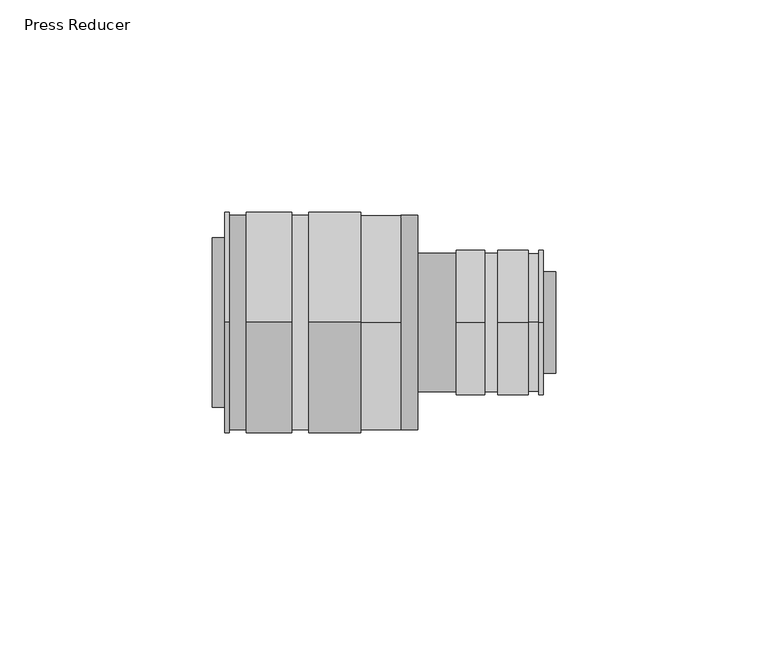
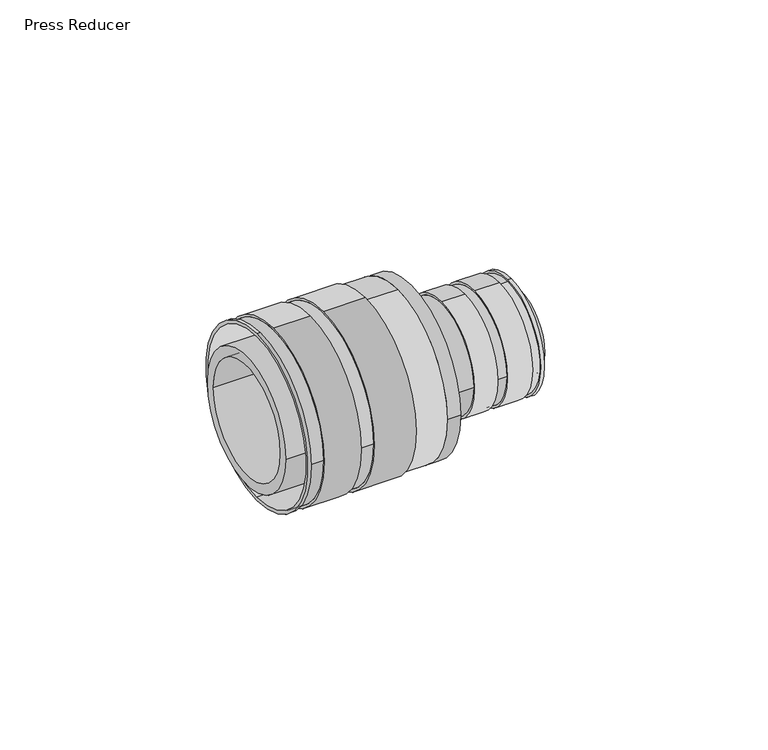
"""IFC4 building model written with IfcOpenShell, lengths in millimetres: pipe fitting geometry, Press Reducer : Superpipe Press Reducer."""

from ifc_helpers import new_model, si_unit, point, frame, frame_2d, origin, place, context, project, spatial, polyline, circle_curve, trimmed, segment, composite_curve, outline, extrude, source, transform, mapped, element, save
from ifc_brep_helpers import plane_surface, cylinder_surface, revolved_surface, advanced_brep


def press_reducer_7717a8a0(model_context):
    return source(origin(), model_context, "Body", "SolidModel", [
        advanced_brep(
        [(3.0, 0.0, -26.0), (3.0, 0.0, 26.0), (3.0, 0.0, -25.0), (3.0, 0.0, 25.0), (44.5, 0.0, -25.3), (44.5, 0.0, 25.3), (44.5, 0.0, -25.0), (44.5, 0.0, 25.0), (4.0, 0.0, -26.0), (4.0, -26.0, 0.0), (4.0, 0.0, 26.0), (35.0, 0.0, -26.0), (35.0, 0.0, 26.0), (22.75, 0.0, 26.0), (22.75, -26.0, 0.0), (22.75, 0.0, -26.0), (18.75, 0.0, -26.0), (18.75, -26.0, 0.0), (18.75, 0.0, 26.0), (8.0, 0.0, 26.0), (8.0, -26.0, 0.0), (8.0, 0.0, -26.0), (4.0, 26.0, 0.0), (22.75, 26.0, 0.0), (18.75, 26.0, 0.0), (8.0, 26.0, 0.0), (35.0, 0.0, -25.3), (35.0, 0.0, 25.3), (18.75, 25.3, 0.0), (18.75, -25.3, 0.0), (22.75, 25.3, 0.0), (22.75, -25.3, 0.0), (8.0, -25.3, 0.0), (8.0, 25.3, 0.0), (4.0, -25.3, 0.0), (4.0, 25.3, 0.0)],
        [
            (0, 1, circle_curve(frame((3.0, 0.0, 0.0), z_axis=(-1.0, 0.0, 0.0), x_axis=(0.0, 0.0, 1.0)), 26.0)),
            (1, 0, circle_curve(frame((3.0, 0.0, 0.0), z_axis=(-1.0, 0.0, 0.0), x_axis=(0.0, 0.0, 1.0)), 26.0)),
            (2, 3, circle_curve(frame((3.0, 0.0, 0.0), z_axis=(1.0, 0.0, 0.0), x_axis=(0.0, 0.0, 1.0)), 25.0)),
            (3, 2, circle_curve(frame((3.0, 0.0, 0.0), z_axis=(1.0, 0.0, 0.0), x_axis=(0.0, 0.0, 1.0)), 25.0)),
            (4, 5, circle_curve(frame((44.5, 0.0, 0.0), z_axis=(1.0, 0.0, 0.0), x_axis=(0.0, 0.0, 1.0)), 25.3)),
            (5, 4, circle_curve(frame((44.5, 0.0, 0.0), z_axis=(1.0, 0.0, 0.0), x_axis=(0.0, 0.0, 1.0)), 25.3)),
            (6, 7, circle_curve(frame((44.5, 0.0, 0.0), z_axis=(-1.0, 0.0, 0.0), x_axis=(0.0, 0.0, 1.0)), 25.0)),
            (7, 6, circle_curve(frame((44.5, 0.0, 0.0), z_axis=(-1.0, 0.0, 0.0), x_axis=(0.0, 0.0, 1.0)), 25.0)),
            (0, 8),
            (8, 9, circle_curve(frame((4.0, 0.0, 0.0), z_axis=(-1.0, 0.0, 0.0), x_axis=(0.0, 0.0, 1.0)), 26.0)),
            (9, 10, circle_curve(frame((4.0, 0.0, 0.0), z_axis=(-1.0, 0.0, 0.0), x_axis=(0.0, 0.0, 1.0)), 26.0)),
            (10, 1),
            (11, 12, circle_curve(frame((35.0, 0.0, 0.0), z_axis=(-1.0, 0.0, 0.0), x_axis=(0.0, 0.0, 1.0)), 26.0)),
            (12, 13),
            (13, 14, circle_curve(frame((22.75, 0.0, 0.0), z_axis=(1.0, 0.0, 0.0), x_axis=(0.0, 0.0, 1.0)), 26.0)),
            (14, 15, circle_curve(frame((22.75, 0.0, 0.0), z_axis=(1.0, 0.0, 0.0), x_axis=(0.0, 0.0, 1.0)), 26.0)),
            (15, 11),
            (16, 17, circle_curve(frame((18.75, 0.0, 0.0), z_axis=(-1.0, 0.0, 0.0), x_axis=(0.0, 0.0, 1.0)), 26.0)),
            (17, 18, circle_curve(frame((18.75, 0.0, 0.0), z_axis=(-1.0, 0.0, 0.0), x_axis=(0.0, 0.0, 1.0)), 26.0)),
            (18, 19),
            (19, 20, circle_curve(frame((8.0, 0.0, 0.0), z_axis=(1.0, 0.0, 0.0), x_axis=(0.0, 0.0, 1.0)), 26.0)),
            (20, 21, circle_curve(frame((8.0, 0.0, 0.0), z_axis=(1.0, 0.0, 0.0), x_axis=(0.0, 0.0, 1.0)), 26.0)),
            (21, 16),
            (10, 22, circle_curve(frame((4.0, 0.0, 0.0), z_axis=(-1.0, 0.0, 0.0), x_axis=(0.0, 0.0, 1.0)), 26.0)),
            (22, 8, circle_curve(frame((4.0, 0.0, 0.0), z_axis=(-1.0, 0.0, 0.0), x_axis=(0.0, 0.0, 1.0)), 26.0)),
            (12, 11, circle_curve(frame((35.0, 0.0, 0.0), z_axis=(-1.0, 0.0, 0.0), x_axis=(0.0, 0.0, 1.0)), 26.0)),
            (15, 23, circle_curve(frame((22.75, 0.0, 0.0), z_axis=(1.0, 0.0, 0.0), x_axis=(0.0, 0.0, 1.0)), 26.0)),
            (23, 13, circle_curve(frame((22.75, 0.0, 0.0), z_axis=(1.0, 0.0, 0.0), x_axis=(0.0, 0.0, 1.0)), 26.0)),
            (24, 16, circle_curve(frame((18.75, 0.0, 0.0), z_axis=(-1.0, 0.0, 0.0), x_axis=(0.0, 0.0, 1.0)), 26.0)),
            (21, 25, circle_curve(frame((8.0, 0.0, 0.0), z_axis=(1.0, 0.0, 0.0), x_axis=(0.0, 0.0, 1.0)), 26.0)),
            (25, 19, circle_curve(frame((8.0, 0.0, 0.0), z_axis=(1.0, 0.0, 0.0), x_axis=(0.0, 0.0, 1.0)), 26.0)),
            (18, 24, circle_curve(frame((18.75, 0.0, 0.0), z_axis=(-1.0, 0.0, 0.0), x_axis=(0.0, 0.0, 1.0)), 26.0)),
            (2, 6),
            (7, 3),
            (26, 27, circle_curve(frame((35.0, 0.0, 0.0), z_axis=(-1.0, 0.0, 0.0), x_axis=(0.0, 0.0, 1.0)), 25.3)),
            (27, 26, circle_curve(frame((35.0, 0.0, 0.0), z_axis=(-1.0, 0.0, 0.0), x_axis=(0.0, 0.0, 1.0)), 25.3)),
            (27, 5),
            (4, 26),
            (28, 29, circle_curve(frame((18.75, 0.0, 0.0), z_axis=(-1.0, 0.0, 0.0), x_axis=(0.0, -1.0, 0.0)), 25.3)),
            (29, 28, circle_curve(frame((18.75, 0.0, 0.0), z_axis=(-1.0, 0.0, 0.0), x_axis=(0.0, -1.0, 0.0)), 25.3)),
            (30, 31, circle_curve(frame((22.75, 0.0, 0.0), z_axis=(1.0, 0.0, 0.0), x_axis=(0.0, -1.0, 0.0)), 25.3)),
            (31, 30, circle_curve(frame((22.75, 0.0, 0.0), z_axis=(1.0, 0.0, 0.0), x_axis=(0.0, -1.0, 0.0)), 25.3)),
            (29, 31),
            (30, 28),
            (32, 33, circle_curve(frame((8.0, 0.0, 0.0), z_axis=(1.0, 0.0, 0.0), x_axis=(0.0, 1.0, 0.0)), 25.3)),
            (33, 32, circle_curve(frame((8.0, 0.0, 0.0), z_axis=(1.0, 0.0, 0.0), x_axis=(0.0, 1.0, 0.0)), 25.3)),
            (34, 35, circle_curve(frame((4.0, 0.0, 0.0), z_axis=(-1.0, 0.0, 0.0), x_axis=(0.0, 1.0, 0.0)), 25.3)),
            (35, 34, circle_curve(frame((4.0, 0.0, 0.0), z_axis=(-1.0, 0.0, 0.0), x_axis=(0.0, 1.0, 0.0)), 25.3)),
            (33, 35),
            (34, 32),
        ],
        [
            plane_surface(frame((3.0, 0.0, 26.0), z_axis=(-1.0, 0.0, 0.0), x_axis=(0.0, 1.0, 0.0))),
            plane_surface(frame((44.5, 0.0, 26.0), z_axis=(1.0, 0.0, 0.0), x_axis=(0.0, -1.0, 0.0))),
            cylinder_surface(frame((44.5, 0.0, 0.0), z_axis=(-1.0, 0.0, 0.0), x_axis=(0.0, 0.0, 1.0)), 26.0),
            revolved_surface(polyline([(44.5, 0.0, 25.0), (3.0, 0.0, 25.0)]), (44.5, 0.0, 0.0), (1.0, 0.0, 0.0)),
            plane_surface(frame((35.0, 0.0, 26.0), z_axis=(1.0, 0.0, 0.0), x_axis=(0.0, 1.0, 0.0))),
            cylinder_surface(frame((44.5, 0.0, 0.0), z_axis=(1.0, 0.0, 0.0), x_axis=(0.0, 0.0, 1.0)), 25.3),
            plane_surface(frame((18.75, -26.0, 0.0), z_axis=(1.0, 0.0, 0.0), x_axis=(0.0, 0.0, 1.0))),
            plane_surface(frame((22.75, -26.0, 0.0), z_axis=(-1.0, 0.0, 0.0), x_axis=(0.0, 0.0, -1.0))),
            cylinder_surface(frame((22.75, 0.0, 0.0), z_axis=(1.0, 0.0, 0.0), x_axis=(0.0, -1.0, 0.0)), 25.3),
            plane_surface(frame((8.0, 26.0, 0.0), z_axis=(-1.0, 0.0, 0.0), x_axis=(0.0, 0.0, 1.0))),
            plane_surface(frame((4.0, 26.0, 0.0), z_axis=(1.0, 0.0, 0.0), x_axis=(0.0, 0.0, -1.0))),
            cylinder_surface(frame((3.0, 0.0, 0.0), z_axis=(-1.0, 0.0, 0.0), x_axis=(0.0, 1.0, 0.0)), 25.3),
        ],
        [
            (0, [[1, 2], [3, 4]]),
            (1, [[5, 6], [7, 8]]),
            (2, [[-1, 9, 10, 11, 12]]),
            (2, [[13, 14, 15, 16, 17]]),
            (2, [[18, 19, 20, 21, 22, 23]]),
            (2, [[-2, -12, 24, 25, -9]]),
            (2, [[26, -17, 27, 28, -14]]),
            (2, [[29, -23, 30, 31, -20, 32]]),
            (3, [[-3, 33, -8, 34]]),
            (3, [[-4, -34, -7, -33]]),
            (4, [[-13, -26], [35, 36]]),
            (5, [[-36, 37, -5, 38]]),
            (5, [[-35, -38, -6, -37]]),
            (6, [[-18, -29, -32, -19], [39, 40]]),
            (7, [[-16, -15, -28, -27], [41, 42]]),
            (8, [[-40, 43, -41, 44]]),
            (8, [[-39, -44, -42, -43]]),
            (9, [[-22, -21, -31, -30], [45, 46]]),
            (10, [[-10, -25, -24, -11], [47, 48]]),
            (11, [[-46, 49, -47, 50]]),
            (11, [[-45, -50, -48, -49]]),
        ],
    ),
        advanced_brep(
        [(78.0, 0.0, -17.0), (78.0, 0.0, 17.0), (78.0, 0.0, -16.0), (78.0, 0.0, 16.0), (48.5, -16.3, 0.0), (48.5, 16.3, 0.0), (48.5, 0.0, -16.0), (48.5, 0.0, 16.0), (77.0, 0.0, -17.0), (77.0, 0.0, 17.0), (57.5, 0.0, -17.0), (57.5, 17.0, 0.0), (57.5, 0.0, 17.0), (64.25, 0.0, 17.0), (64.25, 17.0, 0.0), (64.25, 0.0, -17.0), (74.5, 0.0, 17.0), (74.5, 0.0, -17.0), (67.25, 0.0, -17.0), (67.25, 17.0, 0.0), (67.25, 0.0, 17.0), (57.5, -17.0, 0.0), (64.25, -17.0, 0.0), (67.25, -17.0, 0.0), (57.5, -16.3, 0.0), (57.5, 16.3, 0.0), (74.5, 0.0, 16.3), (74.5, 0.0, -16.3), (77.0, 0.0, 16.3), (77.0, 0.0, -16.3), (64.25, 16.3, 0.0), (64.25, -16.3, 0.0), (67.25, 16.3, 0.0), (67.25, -16.3, 0.0)],
        [
            (0, 1, circle_curve(frame((78.0, 0.0, 0.0), z_axis=(1.0, 0.0, 0.0), x_axis=(0.0, 0.0, 1.0)), 17.0)),
            (1, 0, circle_curve(frame((78.0, 0.0, 0.0), z_axis=(1.0, 0.0, 0.0), x_axis=(0.0, 0.0, 1.0)), 17.0)),
            (2, 3, circle_curve(frame((78.0, 0.0, 0.0), z_axis=(-1.0, 0.0, 0.0), x_axis=(0.0, 0.0, 1.0)), 16.0)),
            (3, 2, circle_curve(frame((78.0, 0.0, 0.0), z_axis=(-1.0, 0.0, 0.0), x_axis=(0.0, 0.0, 1.0)), 16.0)),
            (4, 5, circle_curve(frame((48.5, 0.0, 0.0), z_axis=(-1.0, 0.0, 0.0), x_axis=(0.0, 1.0, 0.0)), 16.3)),
            (5, 4, circle_curve(frame((48.5, 0.0, 0.0), z_axis=(-1.0, 0.0, 0.0), x_axis=(0.0, 1.0, 0.0)), 16.3)),
            (6, 7, circle_curve(frame((48.5, 0.0, 0.0), z_axis=(1.0, 0.0, 0.0), x_axis=(0.0, 0.0, 1.0)), 16.0)),
            (7, 6, circle_curve(frame((48.5, 0.0, 0.0), z_axis=(1.0, 0.0, 0.0), x_axis=(0.0, 0.0, 1.0)), 16.0)),
            (0, 8),
            (8, 9, circle_curve(frame((77.0, 0.0, 0.0), z_axis=(1.0, 0.0, 0.0), x_axis=(0.0, 0.0, 1.0)), 17.0)),
            (9, 1),
            (10, 11, circle_curve(frame((57.5, 0.0, 0.0), z_axis=(1.0, 0.0, 0.0), x_axis=(0.0, 0.0, 1.0)), 17.0)),
            (11, 12, circle_curve(frame((57.5, 0.0, 0.0), z_axis=(1.0, 0.0, 0.0), x_axis=(0.0, 0.0, 1.0)), 17.0)),
            (12, 13),
            (13, 14, circle_curve(frame((64.25, 0.0, 0.0), z_axis=(-1.0, 0.0, 0.0), x_axis=(0.0, 0.0, 1.0)), 17.0)),
            (14, 15, circle_curve(frame((64.25, 0.0, 0.0), z_axis=(-1.0, 0.0, 0.0), x_axis=(0.0, 0.0, 1.0)), 17.0)),
            (15, 10),
            (16, 17, circle_curve(frame((74.5, 0.0, 0.0), z_axis=(-1.0, 0.0, 0.0), x_axis=(0.0, 0.0, 1.0)), 17.0)),
            (17, 18),
            (18, 19, circle_curve(frame((67.25, 0.0, 0.0), z_axis=(1.0, 0.0, 0.0), x_axis=(0.0, 0.0, 1.0)), 17.0)),
            (19, 20, circle_curve(frame((67.25, 0.0, 0.0), z_axis=(1.0, 0.0, 0.0), x_axis=(0.0, 0.0, 1.0)), 17.0)),
            (20, 16),
            (9, 8, circle_curve(frame((77.0, 0.0, 0.0), z_axis=(1.0, 0.0, 0.0), x_axis=(0.0, 0.0, 1.0)), 17.0)),
            (21, 10, circle_curve(frame((57.5, 0.0, 0.0), z_axis=(1.0, 0.0, 0.0), x_axis=(0.0, 0.0, 1.0)), 17.0)),
            (15, 22, circle_curve(frame((64.25, 0.0, 0.0), z_axis=(-1.0, 0.0, 0.0), x_axis=(0.0, 0.0, 1.0)), 17.0)),
            (22, 13, circle_curve(frame((64.25, 0.0, 0.0), z_axis=(-1.0, 0.0, 0.0), x_axis=(0.0, 0.0, 1.0)), 17.0)),
            (12, 21, circle_curve(frame((57.5, 0.0, 0.0), z_axis=(1.0, 0.0, 0.0), x_axis=(0.0, 0.0, 1.0)), 17.0)),
            (17, 16, circle_curve(frame((74.5, 0.0, 0.0), z_axis=(-1.0, 0.0, 0.0), x_axis=(0.0, 0.0, 1.0)), 17.0)),
            (20, 23, circle_curve(frame((67.25, 0.0, 0.0), z_axis=(1.0, 0.0, 0.0), x_axis=(0.0, 0.0, 1.0)), 17.0)),
            (23, 18, circle_curve(frame((67.25, 0.0, 0.0), z_axis=(1.0, 0.0, 0.0), x_axis=(0.0, 0.0, 1.0)), 17.0)),
            (2, 6),
            (7, 3),
            (24, 25, circle_curve(frame((57.5, 0.0, 0.0), z_axis=(1.0, 0.0, 0.0), x_axis=(0.0, 1.0, 0.0)), 16.3)),
            (25, 24, circle_curve(frame((57.5, 0.0, 0.0), z_axis=(1.0, 0.0, 0.0), x_axis=(0.0, 1.0, 0.0)), 16.3)),
            (25, 5),
            (4, 24),
            (26, 27, circle_curve(frame((74.5, 0.0, 0.0), z_axis=(-1.0, 0.0, 0.0), x_axis=(0.0, 0.0, -1.0)), 16.3)),
            (27, 26, circle_curve(frame((74.5, 0.0, 0.0), z_axis=(-1.0, 0.0, 0.0), x_axis=(0.0, 0.0, -1.0)), 16.3)),
            (28, 29, circle_curve(frame((77.0, 0.0, 0.0), z_axis=(1.0, 0.0, 0.0), x_axis=(0.0, 0.0, -1.0)), 16.3)),
            (29, 28, circle_curve(frame((77.0, 0.0, 0.0), z_axis=(1.0, 0.0, 0.0), x_axis=(0.0, 0.0, -1.0)), 16.3)),
            (27, 29),
            (28, 26),
            (30, 31, circle_curve(frame((64.25, 0.0, 0.0), z_axis=(-1.0, 0.0, 0.0), x_axis=(0.0, -1.0, 0.0)), 16.3)),
            (31, 30, circle_curve(frame((64.25, 0.0, 0.0), z_axis=(-1.0, 0.0, 0.0), x_axis=(0.0, -1.0, 0.0)), 16.3)),
            (32, 33, circle_curve(frame((67.25, 0.0, 0.0), z_axis=(1.0, 0.0, 0.0), x_axis=(0.0, -1.0, 0.0)), 16.3)),
            (33, 32, circle_curve(frame((67.25, 0.0, 0.0), z_axis=(1.0, 0.0, 0.0), x_axis=(0.0, -1.0, 0.0)), 16.3)),
            (31, 33),
            (32, 30),
        ],
        [
            plane_surface(frame((78.0, 0.0, 17.0), z_axis=(1.0, 0.0, 0.0), x_axis=(0.0, -1.0, 0.0))),
            plane_surface(frame((48.5, 0.0, 17.0), z_axis=(-1.0, 0.0, 0.0), x_axis=(0.0, 1.0, 0.0))),
            cylinder_surface(frame((48.5, 0.0, 0.0), z_axis=(1.0, 0.0, 0.0), x_axis=(0.0, 0.0, 1.0)), 17.0),
            revolved_surface(polyline([(48.5, 0.0, 16.0), (78.0, 0.0, 16.0)]), (48.5, 0.0, 0.0), (-1.0, 0.0, 0.0)),
            plane_surface(frame((57.5, 17.0, 0.0), z_axis=(-1.0, 0.0, 0.0), x_axis=(0.0, 0.0, 1.0))),
            cylinder_surface(frame((48.5, 0.0, 0.0), z_axis=(-1.0, 0.0, 0.0), x_axis=(0.0, 1.0, 0.0)), 16.3),
            plane_surface(frame((74.5, 0.0, -17.0), z_axis=(1.0, 0.0, 0.0), x_axis=(0.0, -1.0, 0.0))),
            plane_surface(frame((77.0, 0.0, -17.0), z_axis=(-1.0, 0.0, 0.0), x_axis=(0.0, 1.0, 0.0))),
            cylinder_surface(frame((78.0, 0.0, 0.0), z_axis=(1.0, 0.0, 0.0), x_axis=(0.0, 0.0, -1.0)), 16.3),
            plane_surface(frame((64.25, -17.0, 0.0), z_axis=(1.0, 0.0, 0.0), x_axis=(0.0, 0.0, 1.0))),
            plane_surface(frame((67.25, -17.0, 0.0), z_axis=(-1.0, 0.0, 0.0), x_axis=(0.0, 0.0, -1.0))),
            cylinder_surface(frame((64.25, 0.0, 0.0), z_axis=(1.0, 0.0, 0.0), x_axis=(0.0, -1.0, 0.0)), 16.3),
        ],
        [
            (0, [[1, 2], [3, 4]]),
            (1, [[5, 6], [7, 8]]),
            (2, [[-1, 9, 10, 11]]),
            (2, [[12, 13, 14, 15, 16, 17]]),
            (2, [[18, 19, 20, 21, 22]]),
            (2, [[-2, -11, 23, -9]]),
            (2, [[24, -17, 25, 26, -14, 27]]),
            (2, [[28, -22, 29, 30, -19]]),
            (3, [[-3, 31, -8, 32]]),
            (3, [[-4, -32, -7, -31]]),
            (4, [[-12, -24, -27, -13], [33, 34]]),
            (5, [[-34, 35, -5, 36]]),
            (5, [[-33, -36, -6, -35]]),
            (6, [[-18, -28], [37, 38]]),
            (7, [[-10, -23], [39, 40]]),
            (8, [[-38, 41, -39, 42]]),
            (8, [[-37, -42, -40, -41]]),
            (9, [[-16, -15, -26, -25], [43, 44]]),
            (10, [[-20, -30, -29, -21], [45, 46]]),
            (11, [[-44, 47, -45, 48]]),
            (11, [[-43, -48, -46, -47]]),
        ],
    ),
        extrude(outline(composite_curve([segment(trimmed(circle_curve(frame_2d((-0.000673, 0.0)), 12.0), [point((-12.000673, 0.0))], [point((11.999327, 0.0))], False, "CARTESIAN"), True, "CONTINUOUS"), segment(trimmed(circle_curve(frame_2d((-0.000673, 0.0)), 12.0), [point((11.999327, 0.0))], [point((-12.000673, 0.0))], False, "CARTESIAN"), True, "CONTINUOUS")], self_intersect=False), holes=[composite_curve([segment(trimmed(circle_curve(frame_2d((-0.000673, 0.0)), 9.5), [point((9.499327, 0.0))], [point((-9.500673, 0.0))], True, "CARTESIAN"), True, "CONTINUOUS"), segment(trimmed(circle_curve(frame_2d((-0.000673, 0.0)), 9.5), [point((-9.500673, 0.0))], [point((9.499327, 0.0))], True, "CARTESIAN"), True, "CONTINUOUS")], self_intersect=False)]), frame((48.5, 0.0, 0.0), z_axis=(1.0, 0.0, 0.0), x_axis=(0.0, 1.0, 0.0)), (0.0, 0.0, 1.0), 32.5),
        extrude(outline(composite_curve([segment(trimmed(circle_curve(frame_2d((-0.000673, 0.0)), 25.3), [point((-25.300673, 0.0))], [point((25.299327, 0.0))], False, "CARTESIAN"), True, "CONTINUOUS"), segment(trimmed(circle_curve(frame_2d((-0.000673, 0.0)), 25.3), [point((25.299327, 0.0))], [point((-25.300673, 0.0))], False, "CARTESIAN"), True, "CONTINUOUS")], self_intersect=False), holes=[composite_curve([segment(trimmed(circle_curve(frame_2d((-0.000673, 0.0)), 9.5), [point((9.499327, 0.0))], [point((-9.500673, 0.0))], True, "CARTESIAN"), True, "CONTINUOUS"), segment(trimmed(circle_curve(frame_2d((-0.000673, 0.0)), 9.5), [point((-9.500673, 0.0))], [point((9.499327, 0.0))], True, "CARTESIAN"), True, "CONTINUOUS")], self_intersect=False)]), frame((44.5, 0.0, 0.0), z_axis=(1.0, 0.0, 0.0), x_axis=(0.0, 1.0, 0.0)), (0.0, 0.0, 1.0), 4.0),
        extrude(outline(composite_curve([segment(trimmed(circle_curve(frame_2d((-0.000673, 0.0)), 20.0), [point((-20.000673, 0.0))], [point((19.999327, 0.0))], False, "CARTESIAN"), True, "CONTINUOUS"), segment(trimmed(circle_curve(frame_2d((-0.000673, 0.0)), 20.0), [point((19.999327, 0.0))], [point((-20.000673, 0.0))], False, "CARTESIAN"), True, "CONTINUOUS")], self_intersect=False), holes=[composite_curve([segment(trimmed(circle_curve(frame_2d((-0.000673, 0.0)), 17.0), [point((16.999327, 0.0))], [point((-17.000673, 0.0))], True, "CARTESIAN"), True, "CONTINUOUS"), segment(trimmed(circle_curve(frame_2d((-0.000673, 0.0)), 17.0), [point((-17.000673, 0.0))], [point((16.999327, 0.0))], True, "CARTESIAN"), True, "CONTINUOUS")], self_intersect=False)]), frame((0.0, 0.0, 0.0), z_axis=(1.0, 0.0, 0.0), x_axis=(0.0, 1.0, 0.0)), (0.0, 0.0, 1.0), 44.5),
    ])


if __name__ == "__main__":
    model = new_model("IFC4")
    model_context = context("Model", 3, world=origin())
    ifc_project = project(units=[si_unit("LENGTHUNIT", "METRE", prefix="MILLI")], contexts=[model_context])
    site = spatial("IfcSite", under=ifc_project)
    building = spatial("IfcBuilding", under=site)
    placement = place(None, origin())
    press_reducer_shape = press_reducer_7717a8a0(model_context)
    element("IfcPipeFitting", 1, ObjectType="Press Reducer : Superpipe Press Reducer", at=placement, inside=building, context=model_context, shape_type="MappedRepresentation", body=[
        mapped(press_reducer_shape, transform((0.0, 0.0, 0.0), x_axis=(1.0, 0.0, 0.0), y_axis=(0.0, 1.0, 0.0), z_axis=(0.0, 0.0, 1.0))),
    ])
    save(model, "model.ifc")
